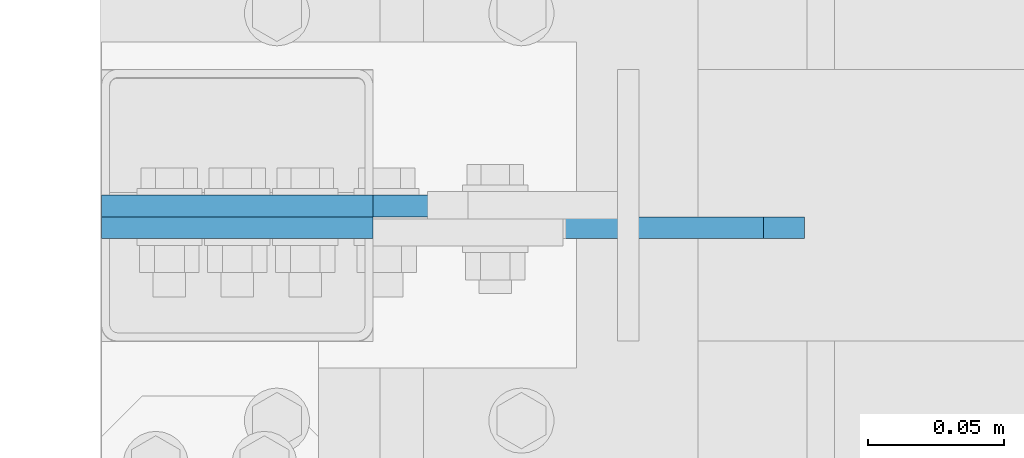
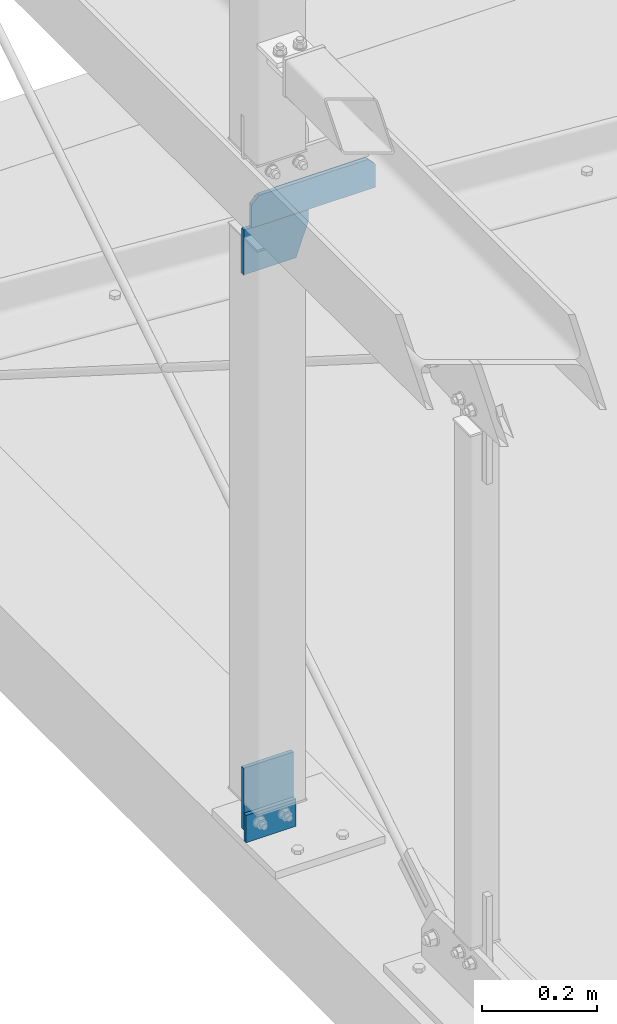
# One storey, part 110 of 271: 4 plates, 3 elements without a shape of their own.
"""IFC2X3 building model written with IfcOpenShell, lengths in millimetres."""

from ifc_helpers import new_model, si_unit, frame, origin_with_axes, place, context, subcontext, project, spatial, polyline, outline, extrude, material, type_object, element, aggregate, save


model = new_model("IFC2X3")

# Units and contexts
model_context = context("Model", 3, precision=1e-05, world=origin_with_axes())
body_context = subcontext(model_context, "Body", "Model", "MODEL_VIEW")
ifc_project = project(units=[si_unit("LENGTHUNIT", "METRE", prefix="MILLI"), si_unit("AREAUNIT", "SQUARE_METRE"), si_unit("VOLUMEUNIT", "CUBIC_METRE"), si_unit("MASSUNIT", "GRAM", prefix="KILO"), si_unit("TIMEUNIT", "SECOND"), si_unit("PLANEANGLEUNIT", "RADIAN"), si_unit("SOLIDANGLEUNIT", "STERADIAN"), si_unit("THERMODYNAMICTEMPERATUREUNIT", "DEGREE_CELSIUS"), si_unit("LUMINOUSINTENSITYUNIT", "LUMEN")], contexts=[model_context])

# Site, building, storey
site_placement = place(None, origin_with_axes())
site = spatial("IfcSite", under=ifc_project, at=site_placement, Name="Undefined", CompositionType="ELEMENT")
building_placement = place(site_placement, origin_with_axes())
building = spatial("IfcBuilding", under=site, at=building_placement, Name="Undefined", CompositionType="ELEMENT")
storey_placement = place(building_placement, origin_with_axes())
storey = spatial("IfcBuildingStorey", under=building, at=storey_placement, Name="Undefined", CompositionType="ELEMENT", Elevation=0.0)

# Assembly, plate
assembly_1_placement = place(storey_placement, origin_with_axes())
assembly_1 = element("IfcElementAssembly", 1, at=assembly_1_placement, inside=storey, AssemblyPlace="NOTDEFINED", PredefinedType="RIGID_FRAME")
ifc_material = material(Name="STEEL/S355JR")
plate_type_1 = type_object("IfcPlateType", Name="BL8*100", PredefinedType="NOTDEFINED")
plate_1_placement = place(assembly_1_placement, frame((88.3756870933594, 2799.05225536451, 152.849999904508), z_axis=(0.0, 1.0, 0.0), x_axis=(0.0, 0.0, -1.0)))
plate_1 = element("IfcPlate", 2, at=plate_1_placement, type_object=plate_type_1, material=ifc_material, Name="BLACHA", ObjectType="BL8*100", context=body_context, shape_type="SweptSolid", body=[
    extrude(outline(polyline([(0.0, 0.0), (130.0, -1.68906158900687e-12), (140.0, 9.99999999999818), (140.0, 90.0), (130.0, 100.0), (1.59161572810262e-12, 100.0), (0.0, 0.0)])), frame((0.0, 0.0, -4.0), z_axis=(0.0, 0.0, 1.0), x_axis=(1.0, 0.0, 0.0)), (0.0, 0.0, 1.0), 8.0),
])

assembly_2_placement = place(storey_placement, origin_with_axes())
assembly_2 = element("IfcElementAssembly", 3, at=assembly_2_placement, inside=storey, AssemblyPlace="NOTDEFINED", PredefinedType="RIGID_FRAME")
plate_type_2 = type_object("IfcPlateType", Name="BL8*58", PredefinedType="NOTDEFINED")
plate_2_placement = place(assembly_2_placement, frame((-11.6243129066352, 2791.05211980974, 7.73070496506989e-12), z_axis=(0.0, 1.0, 0.0), x_axis=(0.0, 0.0, 1.0)))
plate_2 = element("IfcPlate", 4, at=plate_2_placement, type_object=plate_type_2, material=ifc_material, Name="BLACHA", ObjectType="BL8*58", context=body_context, shape_type="SweptSolid", body=[
    extrude(outline(polyline([(0.0, 0.0), (57.8499984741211, 0.0), (57.8499984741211, 100.0), (1.59161572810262e-12, 100.0), (0.0, 0.0)])), frame((0.0, 0.0, -4.0), z_axis=(0.0, 0.0, 1.0), x_axis=(1.0, 0.0, 0.0)), (0.0, 0.0, 1.0), 8.0),
])
aggregate(assembly_2, [plate_2])

# Plate
plate_type_3 = type_object("IfcPlateType", Name="BL8*130", PredefinedType="NOTDEFINED")
plate_3_placement = place(assembly_1_placement, frame((118.375687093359, 2799.05211980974, 1196.8499999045), z_axis=(0.0, -1.0, 0.0), x_axis=(0.0, 0.0, 1.0)))
plate_3 = element("IfcPlate", 5, at=plate_3_placement, type_object=plate_type_3, material=ifc_material, Name="BLACHA", ObjectType="BL8*130", context=body_context, shape_type="SweptSolid", body=[
    extrude(outline(polyline([(0.0, 25.0), (70.0, -8.66862137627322e-13), (155.0, -2.06057393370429e-12), (155.0, 105.0), (94.9999999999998, 105.0), (94.9999999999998, 130.0), (-3.5527136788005e-14, 130.0), (0.0, 25.0)])), frame((0.0, 0.0, -4.0), z_axis=(0.0, 0.0, 1.0), x_axis=(1.0, 0.0, 0.0)), (0.0, 0.0, 1.0), 8.0),
])

aggregate(assembly_1, [plate_1, plate_3])

# Assembly, plate
assembly_3_placement = place(storey_placement, origin_with_axes())
assembly_3 = element("IfcElementAssembly", 6, at=assembly_3_placement, inside=storey, AssemblyPlace="NOTDEFINED", PredefinedType="RIGID_FRAME")
plate_type_4 = type_object("IfcPlateType", Name="BL8*64", PredefinedType="NOTDEFINED")
plate_4_placement = place(assembly_3_placement, frame((-0.42431309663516, 2791.05211980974, 1296.84999990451), z_axis=(0.0, 1.0, 0.0), x_axis=(0.0, 0.0, 1.0)))
plate_4 = element("IfcPlate", 7, at=plate_4_placement, type_object=plate_type_4, material=ifc_material, Name="BLACHA", ObjectType="BL8*64", context=body_context, shape_type="SweptSolid", body=[
    extrude(outline(polyline([(0.0, 0.0), (49.1999969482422, 0.0), (64.1999969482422, 15.0), (64.1999969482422, 232.600006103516), (49.1999969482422, 247.600006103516), (0.0, 247.600006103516), (0.0, 0.0)])), frame((0.0, 0.0, -4.0), z_axis=(0.0, 0.0, 1.0), x_axis=(1.0, 0.0, 0.0)), (0.0, 0.0, 1.0), 8.0),
])
aggregate(assembly_3, [plate_4])

save(model, "model.ifc")
